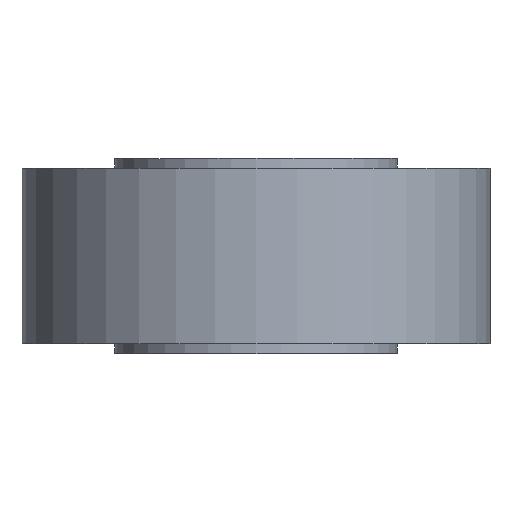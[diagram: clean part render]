
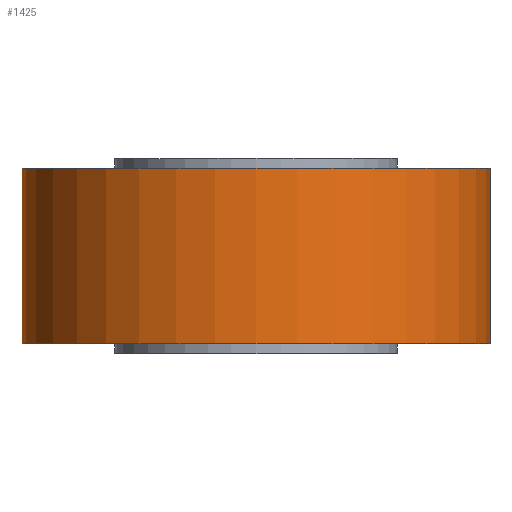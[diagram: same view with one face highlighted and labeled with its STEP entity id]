
A CAD part, front view. The second image highlights one B-rep face of the part: STEP entity #1425.
In plain terms, the highlighted cylindrical face has radius 24 mm (diameter 48 mm), a full revolution.
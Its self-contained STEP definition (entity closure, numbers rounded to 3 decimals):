
#30=B_SPLINE_CURVE_WITH_KNOTS('',3,(#2361,#2362,#2363,#2364,#2365,#2366,
#2367,#2368,#2369,#2370,#2371,#2372,#2373,#2374,#2375,#2376,#2377,#2378,
#2379),.UNSPECIFIED.,.F.,.F.,(4,2,2,2,3,2,2,2,4),(2.954,3.2,
3.446,3.693,3.939,4.185,4.431,
4.677,4.924),.UNSPECIFIED.);
#31=B_SPLINE_CURVE_WITH_KNOTS('',3,(#2380,#2381,#2382,#2383,#2384,#2385,
#2386,#2387,#2388,#2389,#2390,#2391,#2392,#2393,#2394,#2395,#2396,#2397),
 .UNSPECIFIED.,.F.,.F.,(4,2,2,2,2,2,2,2,4),(0.985,1.231,
1.477,1.723,1.969,2.216,2.462,
2.708,2.954),.UNSPECIFIED.);
#64=FACE_BOUND('',#228,.T.);
#133=FACE_OUTER_BOUND('',#227,.T.);
#227=EDGE_LOOP('',(#1034,#1035,#1036,#1037,#1038,#1039));
#228=EDGE_LOOP('',(#1040,#1041));
#316=LINE('',#2355,#384);
#384=VECTOR('',#1867,24.);
#480=CIRCLE('',#1569,24.);
#481=CIRCLE('',#1570,24.);
#482=CIRCLE('',#1572,24.);
#483=CIRCLE('',#1573,24.);
#610=VERTEX_POINT('',#2349);
#611=VERTEX_POINT('',#2350);
#612=VERTEX_POINT('',#2354);
#613=VERTEX_POINT('',#2356);
#614=VERTEX_POINT('',#2359);
#615=VERTEX_POINT('',#2360);
#773=EDGE_CURVE('',#610,#611,#480,.T.);
#774=EDGE_CURVE('',#611,#610,#481,.T.);
#775=EDGE_CURVE('',#611,#612,#316,.T.);
#776=EDGE_CURVE('',#612,#613,#482,.T.);
#777=EDGE_CURVE('',#613,#612,#483,.T.);
#778=EDGE_CURVE('',#614,#615,#30,.T.);
#779=EDGE_CURVE('',#615,#614,#31,.T.);
#1034=ORIENTED_EDGE('',*,*,#773,.F.);
#1035=ORIENTED_EDGE('',*,*,#774,.F.);
#1036=ORIENTED_EDGE('',*,*,#775,.T.);
#1037=ORIENTED_EDGE('',*,*,#776,.T.);
#1038=ORIENTED_EDGE('',*,*,#777,.T.);
#1039=ORIENTED_EDGE('',*,*,#775,.F.);
#1040=ORIENTED_EDGE('',*,*,#778,.T.);
#1041=ORIENTED_EDGE('',*,*,#779,.T.);
#1380=CYLINDRICAL_SURFACE('',#1571,24.);
#1425=ADVANCED_FACE('',(#133,#64),#1380,.T.);
#1569=AXIS2_PLACEMENT_3D('',#2351,#1861,#1862);
#1570=AXIS2_PLACEMENT_3D('',#2352,#1863,#1864);
#1571=AXIS2_PLACEMENT_3D('',#2353,#1865,#1866);
#1572=AXIS2_PLACEMENT_3D('',#2357,#1868,#1869);
#1573=AXIS2_PLACEMENT_3D('',#2358,#1870,#1871);
#1861=DIRECTION('center_axis',(0.,0.,1.));
#1862=DIRECTION('ref_axis',(1.,0.,0.));
#1863=DIRECTION('center_axis',(0.,0.,1.));
#1864=DIRECTION('ref_axis',(1.,0.,0.));
#1865=DIRECTION('center_axis',(0.,0.,1.));
#1866=DIRECTION('ref_axis',(1.,0.,0.));
#1867=DIRECTION('',(0.,0.,-1.));
#1868=DIRECTION('center_axis',(0.,0.,1.));
#1869=DIRECTION('ref_axis',(1.,0.,0.));
#1870=DIRECTION('center_axis',(0.,0.,1.));
#1871=DIRECTION('ref_axis',(1.,0.,0.));
#2349=CARTESIAN_POINT('',(24.,0.,19.));
#2350=CARTESIAN_POINT('',(-24.,0.,19.));
#2351=CARTESIAN_POINT('Origin',(0.,0.,19.));
#2352=CARTESIAN_POINT('Origin',(0.,0.,19.));
#2353=CARTESIAN_POINT('Origin',(0.,0.,10.));
#2354=CARTESIAN_POINT('',(-24.,0.,1.));
#2355=CARTESIAN_POINT('',(-24.,0.,10.));
#2356=CARTESIAN_POINT('',(24.,0.,1.));
#2357=CARTESIAN_POINT('Origin',(0.,0.,1.));
#2358=CARTESIAN_POINT('Origin',(0.,0.,1.));
#2359=CARTESIAN_POINT('',(0.,24.,3.5));
#2360=CARTESIAN_POINT('',(0.,24.,16.5));
#2361=CARTESIAN_POINT('Ctrl Pts',(0.,24.,3.5));
#2362=CARTESIAN_POINT('Ctrl Pts',(0.821,24.,3.5));
#2363=CARTESIAN_POINT('Ctrl Pts',(1.693,23.954,3.665));
#2364=CARTESIAN_POINT('Ctrl Pts',(3.293,23.787,4.329));
#2365=CARTESIAN_POINT('Ctrl Pts',(4.021,23.668,4.829));
#2366=CARTESIAN_POINT('Ctrl Pts',(5.171,23.444,5.979));
#2367=CARTESIAN_POINT('Ctrl Pts',(5.671,23.323,6.707));
#2368=CARTESIAN_POINT('Ctrl Pts',(6.335,23.151,8.307));
#2369=CARTESIAN_POINT('Ctrl Pts',(6.5,23.103,9.179));
#2370=CARTESIAN_POINT('Ctrl Pts',(6.5,23.103,10.));
#2371=CARTESIAN_POINT('Ctrl Pts',(6.5,23.103,10.821));
#2372=CARTESIAN_POINT('Ctrl Pts',(6.335,23.151,11.693));
#2373=CARTESIAN_POINT('Ctrl Pts',(5.671,23.323,13.293));
#2374=CARTESIAN_POINT('Ctrl Pts',(5.171,23.444,14.021));
#2375=CARTESIAN_POINT('Ctrl Pts',(4.021,23.668,15.171));
#2376=CARTESIAN_POINT('Ctrl Pts',(3.293,23.787,15.671));
#2377=CARTESIAN_POINT('Ctrl Pts',(1.693,23.954,16.335));
#2378=CARTESIAN_POINT('Ctrl Pts',(0.821,24.,16.5));
#2379=CARTESIAN_POINT('Ctrl Pts',(0.,24.,16.5));
#2380=CARTESIAN_POINT('Ctrl Pts',(0.,24.,16.5));
#2381=CARTESIAN_POINT('Ctrl Pts',(-0.821,24.,16.5));
#2382=CARTESIAN_POINT('Ctrl Pts',(-1.693,23.954,16.335));
#2383=CARTESIAN_POINT('Ctrl Pts',(-3.293,23.787,15.671));
#2384=CARTESIAN_POINT('Ctrl Pts',(-4.021,23.668,15.171));
#2385=CARTESIAN_POINT('Ctrl Pts',(-5.171,23.444,14.021));
#2386=CARTESIAN_POINT('Ctrl Pts',(-5.671,23.323,13.293));
#2387=CARTESIAN_POINT('Ctrl Pts',(-6.335,23.151,11.693));
#2388=CARTESIAN_POINT('Ctrl Pts',(-6.5,23.103,10.821));
#2389=CARTESIAN_POINT('Ctrl Pts',(-6.5,23.103,9.179));
#2390=CARTESIAN_POINT('Ctrl Pts',(-6.335,23.151,8.307));
#2391=CARTESIAN_POINT('Ctrl Pts',(-5.671,23.323,6.707));
#2392=CARTESIAN_POINT('Ctrl Pts',(-5.171,23.444,5.979));
#2393=CARTESIAN_POINT('Ctrl Pts',(-4.021,23.668,4.829));
#2394=CARTESIAN_POINT('Ctrl Pts',(-3.293,23.787,4.329));
#2395=CARTESIAN_POINT('Ctrl Pts',(-1.693,23.954,3.665));
#2396=CARTESIAN_POINT('Ctrl Pts',(-0.821,24.,3.5));
#2397=CARTESIAN_POINT('Ctrl Pts',(0.,24.,3.5));
